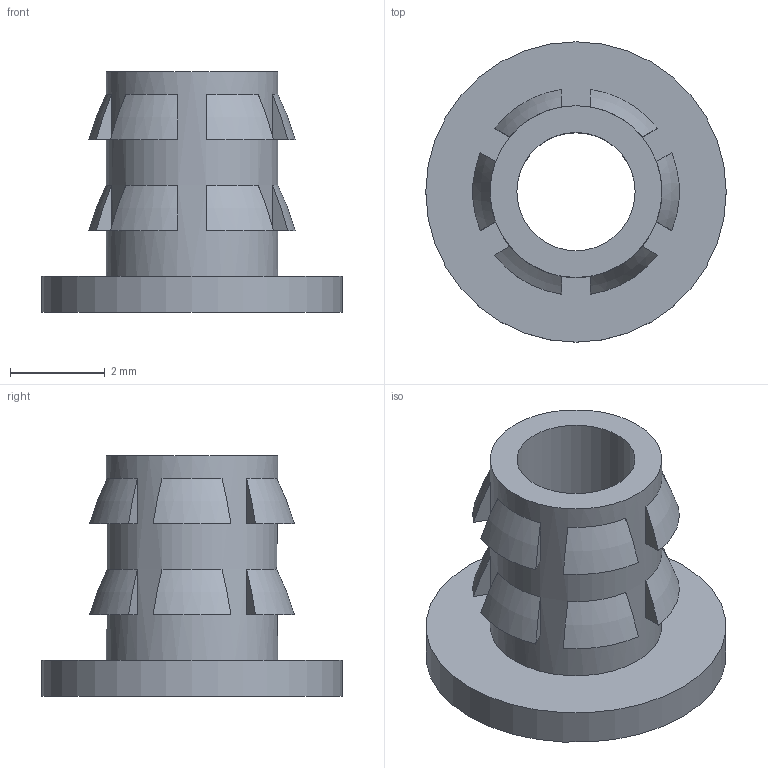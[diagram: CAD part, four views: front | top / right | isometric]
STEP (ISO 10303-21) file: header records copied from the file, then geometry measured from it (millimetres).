
FILE_DESCRIPTION (( 'STEP AP214' ), '1' );
FILE_NAME ('Flanged insert M3 S1.STEP', '2017-08-09T08:42:17', ( '微软用户' ), ( '微软中国' ), 'SwSTEP 2.0', 'SolidWorks 2015', '' );
FILE_SCHEMA (( 'AUTOMOTIVE_DESIGN' ));
Length unit declared in the file: millimetre
Products named in the file (1): Flanged insert M3 S1
Bounding box: 6.35 x 6.35 x 5.08 mm (x, y, z)
Volume: 46.1 mm3; surface area: 170.8 mm2
Topology: 1 solids, 1 shells, 55 faces, 125 edges, 83 vertices
Faces by surface type: plane 39, torus 12, cylinder 3, cone 1
Full cylindrical faces by diameter (mm): 2.5 x1, 3.632 x1, 6.35 x1
Entity records: 1566 total; most frequent: CARTESIAN_POINT 338, DIRECTION 246, ORIENTED_EDGE 230, EDGE_CURVE 115, AXIS2_PLACEMENT_3D 99, VERTEX_POINT 79, EDGE_LOOP 74, FACE_OUTER_BOUND 58
